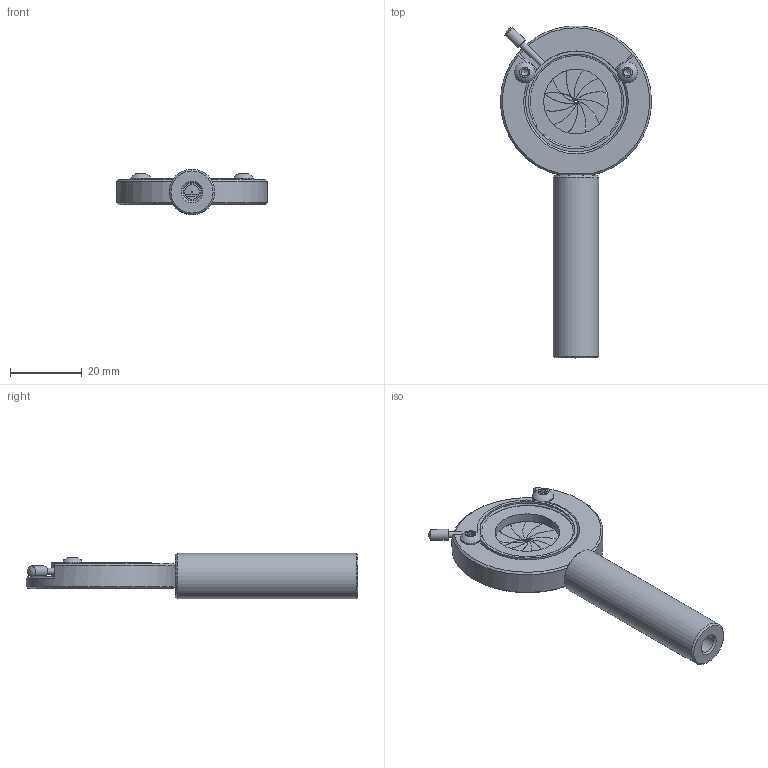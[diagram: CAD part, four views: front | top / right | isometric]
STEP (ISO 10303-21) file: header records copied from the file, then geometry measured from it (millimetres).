
FILE_DESCRIPTION (( 'STEP AP203' ), '1' );
FILE_NAME ('IDH-08.step', '2017-01-11T07:18:11', ( '¦K¬P' ), ( '' ), 'SwSTEP 2.0', 'SolidWorks 2012', '' );
FILE_SCHEMA (( 'CONFIG_CONTROL_DESIGN' ));
Length unit declared in the file: millimetre
Products named in the file (1): IDH-08
Bounding box: 42 x 92.3 x 12.7 mm (x, y, z)
Surface area: 7804.1 mm2 (no closed solid volume)
Topology: 0 solids, 6 shells, 94 faces, 423 edges, 309 vertices
Faces by surface type: plane 50, cylinder 27, cone 13, sphere 3, torus 1
Full cylindrical faces by diameter (mm): 0.8 x1, 1.8 x1, 2.5 x2, 3 x1, 5 x1, 5.7 x2, 12.7 x1, 18 x2, 20 x1, 26.4 x1, 26.9 x1, 28 x1, 28.1 x1
Entity records: 4343 total; most frequent: CARTESIAN_POINT 896, DIRECTION 764, ORIENTED_EDGE 561, EDGE_CURVE 388, VERTEX_POINT 301, AXIS2_PLACEMENT_3D 291, CIRCLE 196, LINE 182
